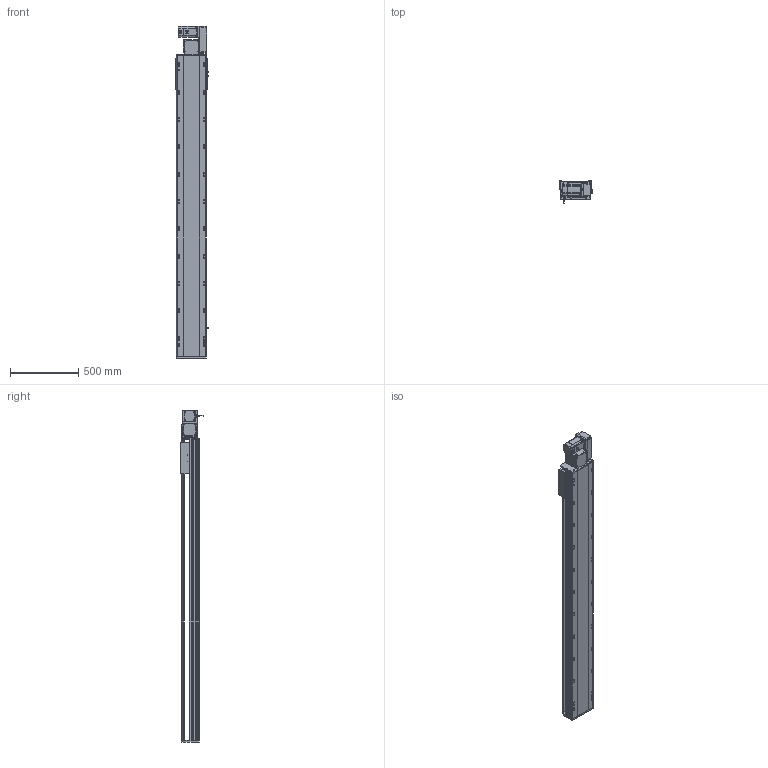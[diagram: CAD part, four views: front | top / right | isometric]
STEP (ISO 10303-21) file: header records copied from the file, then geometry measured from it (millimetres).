
FILE_DESCRIPTION (( 'STEP AP214' ), '1' );
FILE_NAME ('RTB22S-XX-1850-R-M75-C4.STEP', '2025-12-12T07:24:21', ( '' ), ( '' ), 'SwSTEP 2.0', 'SolidWorks 2018', '' );
FILE_SCHEMA (( 'AUTOMOTIVE_DESIGN' ));
Length unit declared in the file: millimetre
Products named in the file (14): RTB22S-GY-005P^RTB22S-R-々湍釱蚾饜_RTB22S-XX-XX-R-M75-C4; RTH22-GY-013外置感应片^RTB22S-XX-XX-R-M75-C4; 750W萇儂^RTB22S-XX-XX-R-M75-C4; RTB22S-GY-001耜裔^RTB22S-XX-XX-R-M75-C4; RTB22S-R-々湍釱蚾饜^RTB22S-XX-XX-R-M75-C4; RTB22S-GY-007奻裔^RTB22S-XX-XX-R-M75-C4; RTB22S-GY-017P^RTB22S-R-々湍釱蚾饜_RTB22S-XX-XX-R-M75-C4; RTB22S-GY-014--々湍釱^RTB22S-R-々湍釱蚾饜_RTB22S-XX-XX-R-M75-C4; RTB22S-XX-1850-R-M75-C4; RTB22S-GY-008-M75--萇儂啣^RTB22S-R-々湍釱蚾饜_RTB22S-XX-XX-R-M75-C4; RTB22S-L-004賑釱^RTB22S-XX-XX-R-M75-C4; OMRON EE-SX672 传感器^RTB22S-XX-XX-R-M75-C4; RTB22S-L-011菁釱^RTB22S-XX-XX-R-M75-C4; RTB22S-GY-018P^RTB22S-R-々湍釱蚾饜_RTB22S-XX-XX-R-M75-C4
Assembly tree (16 placements, depth 3):
  RTB22S-XX-1850-R-M75-C4
    RTB22S-L-011菁釱^RTB22S-XX-XX-R-M75-C4
    RTB22S-GY-001耜裔^RTB22S-XX-XX-R-M75-C4
    750W萇儂^RTB22S-XX-XX-R-M75-C4
    RTB22S-GY-007奻裔^RTB22S-XX-XX-R-M75-C4
    RTB22S-L-004賑釱^RTB22S-XX-XX-R-M75-C4
    RTH22-GY-013外置感应片^RTB22S-XX-XX-R-M75-C4
    OMRON EE-SX672 传感器^RTB22S-XX-XX-R-M75-C4  x3
    RTB22S-R-々湍釱蚾饜^RTB22S-XX-XX-R-M75-C4
      RTB22S-GY-014--々湍釱^RTB22S-R-々湍釱蚾饜_RTB22S-XX-XX-R-M75-C4
      RTB22S-GY-017P^RTB22S-R-々湍釱蚾饜_RTB22S-XX-XX-R-M75-C4  x2
      RTB22S-GY-005P^RTB22S-R-々湍釱蚾饜_RTB22S-XX-XX-R-M75-C4
      RTB22S-GY-008-M75--萇儂啣^RTB22S-R-々湍釱蚾饜_RTB22S-XX-XX-R-M75-C4
      RTB22S-GY-018P^RTB22S-R-々湍釱蚾饜_RTB22S-XX-XX-R-M75-C4
Bounding box: 238.5 x 162.7 x 2429 mm (x, y, z)
Volume: 31187696.5 mm3; surface area: 3207799.1 mm2
Topology: 15 solids, 15 shells, 2055 faces, 5586 edges, 3572 vertices
Faces by surface type: plane 923, cylinder 670, bspline 296, cone 154, sphere 8, torus 4
Entity records: 55400 total; most frequent: CARTESIAN_POINT 15764, ORIENTED_EDGE 7928, DIRECTION 7698, EDGE_CURVE 3964, AXIS2_PLACEMENT_3D 2742, VERTEX_POINT 2576, LINE 2214, VECTOR 2214
